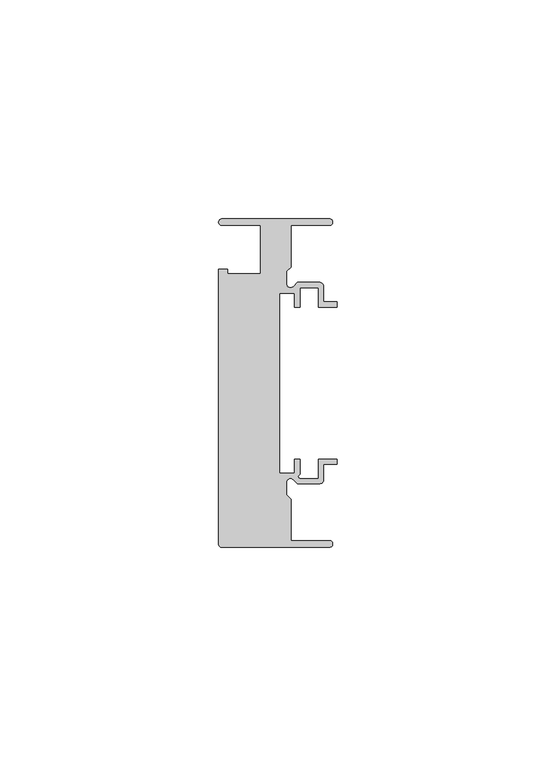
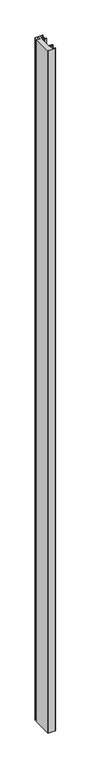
"""IFC4 building model written with IfcOpenShell, lengths in millimetres: member geometry, Прямоугольный импост : 5-AMG-1-Профиль 26Х75 Низ Л."""

from ifc_helpers import new_model, si_unit, point, frame, frame_2d, origin, place, context, project, spatial, polyline, circle_curve, trimmed, segment, composite_curve, outline, extrude, source, transform, mapped, element, save


def member_24111c01(model_context):
    return source(origin(), model_context, "Body", "SweptSolid", [
        extrude(outline(composite_curve([segment(trimmed(circle_curve(frame_2d((-1.7, 36.75)), 0.75), [point((-1.7, 37.5))], [point((-1.7, 36.0))], False, "CARTESIAN"), True, "CONTINUOUS"), segment(polyline([(-1.7, 36.0), (-10.5, 36.0), (-10.5, 26.5029437), (-11.5, 25.5029437), (-11.5, 22.6727922)]), True, "CONTINUOUS"), segment(trimmed(circle_curve(frame_2d((-10.6, 22.6727922)), 0.9), [point((-11.5, 22.6727922))], [point((-9.9636039, 22.0363961))], True, "CARTESIAN"), True, "CONTINUOUS"), segment(polyline([(-9.9636039, 22.0363961), (-9.0, 23.0), (-4.0, 23.0)]), True, "CONTINUOUS"), segment(trimmed(circle_curve(frame_2d((-4.0, 22.0)), 1.0), [point((-4.0, 23.0))], [point((-3.0, 22.0))], False, "CARTESIAN"), True, "CONTINUOUS"), segment(polyline([(-3.0, 22.0), (-3.0, 18.55), (0.0, 18.55), (0.0, 17.35), (-4.2, 17.35), (-4.2, 21.8), (-8.45, 21.8), (-8.45, 17.35), (-9.65, 17.35), (-9.65, 20.55), (-13.15, 20.55), (-13.15, -20.55), (-9.65, -20.55), (-9.65, -17.35), (-8.45, -17.35), (-8.45, -20.8470563)]), True, "CONTINUOUS"), segment(trimmed(circle_curve(frame_2d((-8.3343131, -21.3314262)), 0.4979937), [point((-8.45, -20.8470563))], [point((-8.5029437, -21.8))], True, "CARTESIAN"), True, "CONTINUOUS"), segment(polyline([(-8.5029437, -21.8), (-4.2, -21.8), (-4.2, -17.35), (0.0, -17.35), (0.0, -18.55), (-3.0, -18.55), (-3.0, -22.0)]), True, "CONTINUOUS"), segment(trimmed(circle_curve(frame_2d((-4.0, -22.0)), 1.0), [point((-3.0, -22.0))], [point((-4.0, -23.0))], False, "CARTESIAN"), True, "CONTINUOUS"), segment(polyline([(-4.0, -23.0), (-9.0, -23.0), (-9.9636039, -22.0363961)]), True, "CONTINUOUS"), segment(trimmed(circle_curve(frame_2d((-10.6, -22.6727922)), 0.9), [point((-9.9636039, -22.0363961))], [point((-11.5, -22.6727922))], True, "CARTESIAN"), True, "CONTINUOUS"), segment(polyline([(-11.5, -22.6727922), (-11.5, -25.5029437), (-10.5, -26.5029437), (-10.5, -36.0), (-1.7, -36.0)]), True, "CONTINUOUS"), segment(trimmed(circle_curve(frame_2d((-1.7, -36.75)), 0.75), [point((-1.7, -36.0))], [point((-1.7, -37.5))], False, "CARTESIAN"), True, "CONTINUOUS"), segment(polyline([(-1.7, -37.5), (-26.25, -37.5)]), True, "CONTINUOUS"), segment(trimmed(circle_curve(frame_2d((-26.25, -36.75)), 0.75), [point((-26.25, -37.5))], [point((-27.0, -36.75))], False, "CARTESIAN"), True, "CONTINUOUS"), segment(polyline([(-27.0, -36.75), (-27.0, 26.0), (-24.9359877, 26.0), (-24.9359877, 25.0), (-17.5, 25.0), (-17.5, 36.0), (-26.25, 36.0)]), True, "CONTINUOUS"), segment(trimmed(circle_curve(frame_2d((-26.25, 36.75)), 0.75), [point((-26.25, 36.0))], [point((-26.25, 37.5))], False, "CARTESIAN"), True, "CONTINUOUS"), segment(polyline([(-26.25, 37.5), (-1.7, 37.5)]), True, "CONTINUOUS")], self_intersect=False)), frame((0.0, 0.0, -2365.0), z_axis=(0.0, 0.0, 1.0), x_axis=(1.0, 0.0, 0.0)), (0.0, 0.0, 1.0), 2365.0),
    ])


if __name__ == "__main__":
    model = new_model("IFC4")
    model_context = context("Model", 3, world=origin())
    ifc_project = project(units=[si_unit("LENGTHUNIT", "METRE", prefix="MILLI")], contexts=[model_context])
    site = spatial("IfcSite", under=ifc_project)
    building = spatial("IfcBuilding", under=site)
    placement = place(None, origin())
    member_shape = member_24111c01(model_context)
    element("IfcMember", 1, ObjectType="Прямоугольный импост : 5-AMG-1-Профиль 26Х75 Низ Л", at=placement, inside=building, context=model_context, shape_type="MappedRepresentation", body=[
        mapped(member_shape, transform((0.0, 0.0, 0.0), x_axis=(1.0, 0.0, 0.0), y_axis=(0.0, 1.0, 0.0), z_axis=(0.0, 0.0, 1.0))),
    ])
    save(model, "model.ifc")
